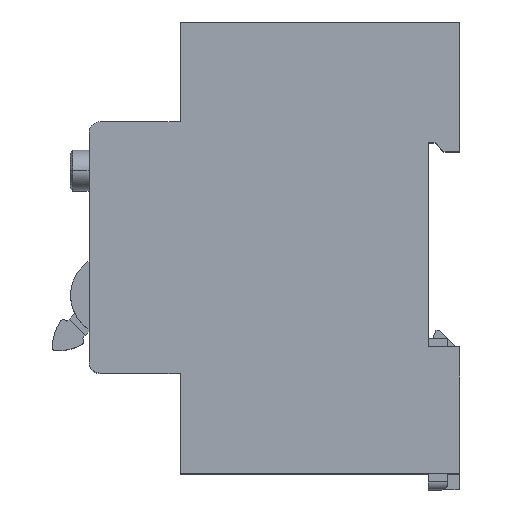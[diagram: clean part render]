
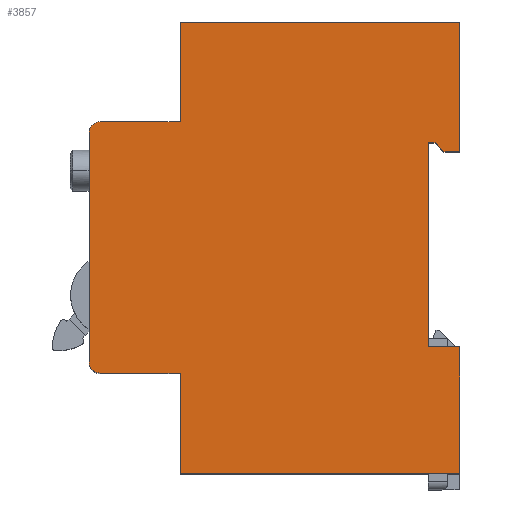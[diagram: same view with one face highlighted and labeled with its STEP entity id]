
A CAD part, top view. The second image highlights one B-rep face of the part: STEP entity #3857.
In plain terms, the highlighted planar face has unit normal (0, 0, 1).
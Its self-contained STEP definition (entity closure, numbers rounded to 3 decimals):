
#67 = VERTEX_POINT ( 'NONE', #8629 ) ;
#123 = LINE ( 'NONE', #2877, #8276 ) ;
#279 = EDGE_CURVE ( 'NONE', #19626, #3413, #18385, .T. ) ;
#498 = ORIENTED_EDGE ( 'NONE', *, *, #2755, .F. ) ;
#744 = VECTOR ( 'NONE', #15517, 1000. ) ;
#1127 = DIRECTION ( 'NONE',  ( 1., 0., 0. ) ) ;
#1234 = DIRECTION ( 'NONE',  ( 0., 0., -1. ) ) ;
#1483 = VERTEX_POINT ( 'NONE', #13661 ) ;
#1792 = EDGE_CURVE ( 'NONE', #6383, #10902, #16195, .T. ) ;
#1798 = DIRECTION ( 'NONE',  ( 1., 0., 0. ) ) ;
#1825 = VECTOR ( 'NONE', #1127, 1000. ) ;
#1991 = ORIENTED_EDGE ( 'NONE', *, *, #17997, .F. ) ;
#2133 = CARTESIAN_POINT ( 'NONE',  ( -16.3, 18., 72. ) ) ;
#2137 = CARTESIAN_POINT ( 'NONE',  ( -14.3, 63., 72. ) ) ;
#2238 = DIRECTION ( 'NONE',  ( -1., 0., 0. ) ) ;
#2675 = VERTEX_POINT ( 'NONE', #5530 ) ;
#2719 = DIRECTION ( 'NONE',  ( 0., 0., 1. ) ) ;
#2755 = EDGE_CURVE ( 'NONE', #2675, #17042, #6188, .T. ) ;
#2877 = CARTESIAN_POINT ( 'NONE',  ( 50., 22.7, 72. ) ) ;
#3075 = CARTESIAN_POINT ( 'NONE',  ( 0., 63., 72. ) ) ;
#3097 = LINE ( 'NONE', #9313, #744 ) ;
#3369 = VECTOR ( 'NONE', #6842, 1000. ) ;
#3413 = VERTEX_POINT ( 'NONE', #11672 ) ;
#3816 = ORIENTED_EDGE ( 'NONE', *, *, #10370, .F. ) ;
#3857 = ADVANCED_FACE ( 'NONE', ( #8890 ), #4305, .F. ) ;
#3873 = DIRECTION ( 'NONE',  ( 0., 1., 0. ) ) ;
#3934 = ORIENTED_EDGE ( 'NONE', *, *, #17277, .F. ) ;
#4053 = CARTESIAN_POINT ( 'NONE',  ( 0., 0., 72. ) ) ;
#4258 = CARTESIAN_POINT ( 'NONE',  ( -14.3, 20., 72. ) ) ;
#4305 = PLANE ( 'NONE',  #8907 ) ;
#4383 = CARTESIAN_POINT ( 'NONE',  ( -14.3, 61., 72. ) ) ;
#4656 = EDGE_CURVE ( 'NONE', #11210, #18494, #11322, .T. ) ;
#5155 = ORIENTED_EDGE ( 'NONE', *, *, #1792, .F. ) ;
#5228 = LINE ( 'NONE', #17832, #3369 ) ;
#5247 = CIRCLE ( 'NONE', #11091, 2. ) ;
#5530 = CARTESIAN_POINT ( 'NONE',  ( 0., 80.8, 72. ) ) ;
#5771 = DIRECTION ( 'NONE',  ( -1., 0., 0. ) ) ;
#5799 = ORIENTED_EDGE ( 'NONE', *, *, #14408, .T. ) ;
#5871 = CARTESIAN_POINT ( 'NONE',  ( 50., 57.6, 72. ) ) ;
#5935 = DIRECTION ( 'NONE',  ( -1., 0., 0. ) ) ;
#6188 = LINE ( 'NONE', #9654, #18286 ) ;
#6236 = LINE ( 'NONE', #3075, #8128 ) ;
#6237 = VECTOR ( 'NONE', #2238, 1000. ) ;
#6346 = DIRECTION ( 'NONE',  ( 0., -1., 0. ) ) ;
#6351 = ORIENTED_EDGE ( 'NONE', *, *, #6931, .F. ) ;
#6383 = VERTEX_POINT ( 'NONE', #8838 ) ;
#6787 = DIRECTION ( 'NONE',  ( -0.707, 0.707, 0. ) ) ;
#6842 = DIRECTION ( 'NONE',  ( 0., -1., 0. ) ) ;
#6905 = CARTESIAN_POINT ( 'NONE',  ( 50., 0., 72. ) ) ;
#6931 = EDGE_CURVE ( 'NONE', #16640, #16779, #19550, .T. ) ;
#6939 = CARTESIAN_POINT ( 'NONE',  ( 44.4, 59.2, 72. ) ) ;
#6958 = CARTESIAN_POINT ( 'NONE',  ( 47.2, 57.6, 72. ) ) ;
#7482 = DIRECTION ( 'NONE',  ( -1., 0., 0. ) ) ;
#7702 = EDGE_CURVE ( 'NONE', #13490, #6383, #18899, .T. ) ;
#7983 = ORIENTED_EDGE ( 'NONE', *, *, #13770, .T. ) ;
#8128 = VECTOR ( 'NONE', #15499, 1000. ) ;
#8149 = CARTESIAN_POINT ( 'NONE',  ( 0., 18., 72. ) ) ;
#8276 = VECTOR ( 'NONE', #6346, 1000. ) ;
#8503 = AXIS2_PLACEMENT_3D ( 'NONE', #4258, #2719, #10463 ) ;
#8629 = CARTESIAN_POINT ( 'NONE',  ( 50., 57.6, 72. ) ) ;
#8838 = CARTESIAN_POINT ( 'NONE',  ( 45.6, 59.2, 72. ) ) ;
#8890 = FACE_OUTER_BOUND ( 'NONE', #10371, .T. ) ;
#8907 = AXIS2_PLACEMENT_3D ( 'NONE', #19872, #1234, #5935 ) ;
#9313 = CARTESIAN_POINT ( 'NONE',  ( 50., 80.8, 72. ) ) ;
#9535 = ORIENTED_EDGE ( 'NONE', *, *, #7702, .F. ) ;
#9631 = VERTEX_POINT ( 'NONE', #8149 ) ;
#9654 = CARTESIAN_POINT ( 'NONE',  ( 0., 80.8, 72. ) ) ;
#9697 = CARTESIAN_POINT ( 'NONE',  ( 44.4, 59.2, 72. ) ) ;
#9814 = CIRCLE ( 'NONE', #8503, 2. ) ;
#10112 = LINE ( 'NONE', #13662, #11067 ) ;
#10370 = EDGE_CURVE ( 'NONE', #3413, #9631, #13315, .T. ) ;
#10371 = EDGE_LOOP ( 'NONE', ( #12475, #5155, #9535, #1991, #3934, #498, #15537, #6351, #7983, #19169, #5799, #19589, #3816, #11711, #19819, #12199 ) ) ;
#10463 = DIRECTION ( 'NONE',  ( -1., 0., 0. ) ) ;
#10724 = VECTOR ( 'NONE', #15237, 1000. ) ;
#10902 = VERTEX_POINT ( 'NONE', #9697 ) ;
#10923 = EDGE_CURVE ( 'NONE', #16779, #2675, #6236, .T. ) ;
#11067 = VECTOR ( 'NONE', #15102, 1000. ) ;
#11091 = AXIS2_PLACEMENT_3D ( 'NONE', #4383, #13541, #14869 ) ;
#11210 = VERTEX_POINT ( 'NONE', #11610 ) ;
#11322 = LINE ( 'NONE', #2133, #12842 ) ;
#11610 = CARTESIAN_POINT ( 'NONE',  ( -16.3, 20., 72. ) ) ;
#11638 = VECTOR ( 'NONE', #6787, 1000. ) ;
#11672 = CARTESIAN_POINT ( 'NONE',  ( 0., 0., 72. ) ) ;
#11711 = ORIENTED_EDGE ( 'NONE', *, *, #279, .F. ) ;
#12052 = EDGE_CURVE ( 'NONE', #10902, #1483, #5228, .T. ) ;
#12199 = ORIENTED_EDGE ( 'NONE', *, *, #14853, .F. ) ;
#12475 = ORIENTED_EDGE ( 'NONE', *, *, #12052, .F. ) ;
#12575 = EDGE_CURVE ( 'NONE', #14858, #19626, #123, .T. ) ;
#12842 = VECTOR ( 'NONE', #3873, 1000. ) ;
#13315 = LINE ( 'NONE', #4053, #10724 ) ;
#13490 = VERTEX_POINT ( 'NONE', #6958 ) ;
#13541 = DIRECTION ( 'NONE',  ( 0., 0., 1. ) ) ;
#13613 = LINE ( 'NONE', #15048, #19222 ) ;
#13661 = CARTESIAN_POINT ( 'NONE',  ( 44.4, 22.7, 72. ) ) ;
#13662 = CARTESIAN_POINT ( 'NONE',  ( 44.4, 22.7, 72. ) ) ;
#13770 = EDGE_CURVE ( 'NONE', #16640, #18494, #5247, .T. ) ;
#14358 = VERTEX_POINT ( 'NONE', #17505 ) ;
#14408 = EDGE_CURVE ( 'NONE', #11210, #14358, #9814, .T. ) ;
#14439 = EDGE_CURVE ( 'NONE', #9631, #14358, #13613, .T. ) ;
#14712 = VECTOR ( 'NONE', #5771, 1000. ) ;
#14806 = CARTESIAN_POINT ( 'NONE',  ( 50., 22.7, 72. ) ) ;
#14853 = EDGE_CURVE ( 'NONE', #1483, #14858, #10112, .T. ) ;
#14858 = VERTEX_POINT ( 'NONE', #14806 ) ;
#14869 = DIRECTION ( 'NONE',  ( -1., 0., 0. ) ) ;
#15048 = CARTESIAN_POINT ( 'NONE',  ( 0., 18., 72. ) ) ;
#15102 = DIRECTION ( 'NONE',  ( 1., 0., 0. ) ) ;
#15237 = DIRECTION ( 'NONE',  ( 0., 1., 0. ) ) ;
#15352 = VECTOR ( 'NONE', #7482, 1000. ) ;
#15499 = DIRECTION ( 'NONE',  ( 0., 1., 0. ) ) ;
#15517 = DIRECTION ( 'NONE',  ( 0., -1., 0. ) ) ;
#15537 = ORIENTED_EDGE ( 'NONE', *, *, #10923, .F. ) ;
#16195 = LINE ( 'NONE', #6939, #6237 ) ;
#16376 = DIRECTION ( 'NONE',  ( -1., 0., 0. ) ) ;
#16640 = VERTEX_POINT ( 'NONE', #2137 ) ;
#16693 = CARTESIAN_POINT ( 'NONE',  ( -16.3, 61., 72. ) ) ;
#16779 = VERTEX_POINT ( 'NONE', #19348 ) ;
#17042 = VERTEX_POINT ( 'NONE', #18376 ) ;
#17277 = EDGE_CURVE ( 'NONE', #17042, #67, #3097, .T. ) ;
#17505 = CARTESIAN_POINT ( 'NONE',  ( -14.3, 18., 72. ) ) ;
#17585 = CARTESIAN_POINT ( 'NONE',  ( 45.6, 59.2, 72. ) ) ;
#17832 = CARTESIAN_POINT ( 'NONE',  ( 44.4, 57.6, 72. ) ) ;
#17933 = CARTESIAN_POINT ( 'NONE',  ( -16.3, 63., 72. ) ) ;
#17997 = EDGE_CURVE ( 'NONE', #67, #13490, #19810, .T. ) ;
#18286 = VECTOR ( 'NONE', #1798, 1000. ) ;
#18376 = CARTESIAN_POINT ( 'NONE',  ( 50., 80.8, 72. ) ) ;
#18385 = LINE ( 'NONE', #20012, #14712 ) ;
#18494 = VERTEX_POINT ( 'NONE', #16693 ) ;
#18899 = LINE ( 'NONE', #17585, #11638 ) ;
#19169 = ORIENTED_EDGE ( 'NONE', *, *, #4656, .F. ) ;
#19222 = VECTOR ( 'NONE', #16376, 1000. ) ;
#19348 = CARTESIAN_POINT ( 'NONE',  ( 0., 63., 72. ) ) ;
#19550 = LINE ( 'NONE', #17933, #1825 ) ;
#19589 = ORIENTED_EDGE ( 'NONE', *, *, #14439, .F. ) ;
#19626 = VERTEX_POINT ( 'NONE', #6905 ) ;
#19810 = LINE ( 'NONE', #5871, #15352 ) ;
#19819 = ORIENTED_EDGE ( 'NONE', *, *, #12575, .F. ) ;
#19872 = CARTESIAN_POINT ( 'NONE',  ( 0., 0., 72. ) ) ;
#20012 = CARTESIAN_POINT ( 'NONE',  ( 50., 0., 72. ) ) ;
